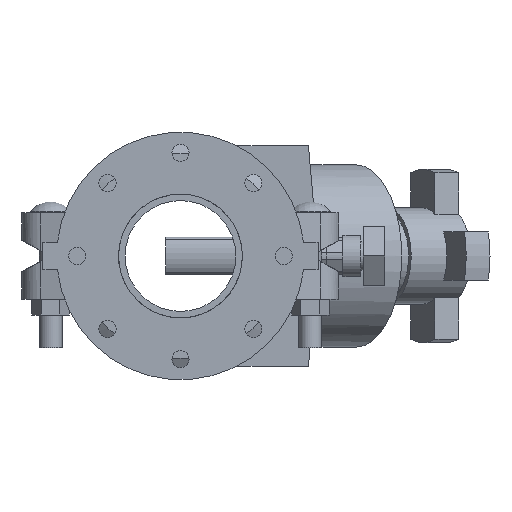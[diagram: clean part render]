
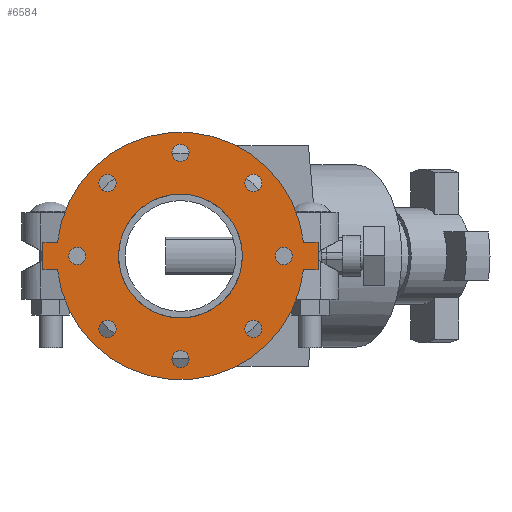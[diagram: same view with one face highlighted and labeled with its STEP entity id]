
A CAD part, front view. The second image highlights one B-rep face of the part: STEP entity #6584.
In plain terms, the highlighted planar face has unit normal (0, -1, 0) as drawn and (0, 0, 1) by its records, which use the part's own axes.
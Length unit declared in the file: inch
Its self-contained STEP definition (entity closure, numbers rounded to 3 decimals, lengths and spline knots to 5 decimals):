
#210=FACE_BOUND('',#872,.T.);
#211=FACE_BOUND('',#873,.T.);
#212=FACE_BOUND('',#874,.T.);
#213=FACE_BOUND('',#875,.T.);
#214=FACE_BOUND('',#876,.T.);
#215=FACE_BOUND('',#877,.T.);
#216=FACE_BOUND('',#878,.T.);
#217=FACE_BOUND('',#879,.T.);
#218=FACE_BOUND('',#880,.T.);
#284=PLANE('',#7166);
#504=FACE_OUTER_BOUND('',#871,.T.);
#871=EDGE_LOOP('',(#4293,#4294,#4295,#4296,#4297,#4298,#4299,#4300));
#872=EDGE_LOOP('',(#4301));
#873=EDGE_LOOP('',(#4302));
#874=EDGE_LOOP('',(#4303));
#875=EDGE_LOOP('',(#4304));
#876=EDGE_LOOP('',(#4305));
#877=EDGE_LOOP('',(#4306));
#878=EDGE_LOOP('',(#4307));
#879=EDGE_LOOP('',(#4308));
#880=EDGE_LOOP('',(#4309,#4310));
#1298=LINE('',#10084,#1789);
#1299=LINE('',#10087,#1790);
#1302=LINE('',#10092,#1793);
#1303=LINE('',#10095,#1794);
#1305=LINE('',#10098,#1796);
#1306=LINE('',#10100,#1797);
#1789=VECTOR('',#8013,0.3937);
#1790=VECTOR('',#8016,0.3937);
#1793=VECTOR('',#8021,0.3937);
#1794=VECTOR('',#8024,0.3937);
#1796=VECTOR('',#8028,0.3937);
#1797=VECTOR('',#8031,0.3937);
#2260=CIRCLE('',#7125,0.3125);
#2262=CIRCLE('',#7128,0.3125);
#2264=CIRCLE('',#7131,0.3125);
#2266=CIRCLE('',#7134,0.3125);
#2268=CIRCLE('',#7137,0.3125);
#2270=CIRCLE('',#7140,0.3125);
#2272=CIRCLE('',#7143,0.3125);
#2274=CIRCLE('',#7146,0.3125);
#2280=CIRCLE('',#7154,4.5);
#2281=CIRCLE('',#7156,2.25);
#2282=CIRCLE('',#7157,2.25);
#2283=CIRCLE('',#7159,4.5);
#2635=VERTEX_POINT('',#9995);
#2637=VERTEX_POINT('',#10001);
#2639=VERTEX_POINT('',#10007);
#2641=VERTEX_POINT('',#10013);
#2643=VERTEX_POINT('',#10019);
#2645=VERTEX_POINT('',#10025);
#2647=VERTEX_POINT('',#10031);
#2649=VERTEX_POINT('',#10037);
#2661=VERTEX_POINT('',#10064);
#2662=VERTEX_POINT('',#10066);
#2663=VERTEX_POINT('',#10070);
#2664=VERTEX_POINT('',#10072);
#2665=VERTEX_POINT('',#10076);
#2666=VERTEX_POINT('',#10078);
#2667=VERTEX_POINT('',#10082);
#2668=VERTEX_POINT('',#10086);
#2669=VERTEX_POINT('',#10090);
#2670=VERTEX_POINT('',#10094);
#3270=EDGE_CURVE('',#2635,#2635,#2260,.T.);
#3273=EDGE_CURVE('',#2637,#2637,#2262,.T.);
#3276=EDGE_CURVE('',#2639,#2639,#2264,.T.);
#3279=EDGE_CURVE('',#2641,#2641,#2266,.T.);
#3282=EDGE_CURVE('',#2643,#2643,#2268,.T.);
#3285=EDGE_CURVE('',#2645,#2645,#2270,.T.);
#3288=EDGE_CURVE('',#2647,#2647,#2272,.T.);
#3291=EDGE_CURVE('',#2649,#2649,#2274,.T.);
#3306=EDGE_CURVE('',#2661,#2662,#2280,.T.);
#3308=EDGE_CURVE('',#2664,#2663,#2281,.T.);
#3309=EDGE_CURVE('',#2663,#2664,#2282,.T.);
#3311=EDGE_CURVE('',#2666,#2665,#2283,.T.);
#3314=EDGE_CURVE('',#2662,#2667,#1298,.T.);
#3315=EDGE_CURVE('',#2668,#2666,#1299,.T.);
#3318=EDGE_CURVE('',#2665,#2669,#1302,.T.);
#3319=EDGE_CURVE('',#2670,#2661,#1303,.T.);
#3321=EDGE_CURVE('',#2669,#2670,#1305,.T.);
#3322=EDGE_CURVE('',#2667,#2668,#1306,.T.);
#4293=ORIENTED_EDGE('',*,*,#3318,.T.);
#4294=ORIENTED_EDGE('',*,*,#3321,.T.);
#4295=ORIENTED_EDGE('',*,*,#3319,.T.);
#4296=ORIENTED_EDGE('',*,*,#3306,.T.);
#4297=ORIENTED_EDGE('',*,*,#3314,.T.);
#4298=ORIENTED_EDGE('',*,*,#3322,.T.);
#4299=ORIENTED_EDGE('',*,*,#3315,.T.);
#4300=ORIENTED_EDGE('',*,*,#3311,.T.);
#4301=ORIENTED_EDGE('',*,*,#3270,.T.);
#4302=ORIENTED_EDGE('',*,*,#3273,.T.);
#4303=ORIENTED_EDGE('',*,*,#3276,.T.);
#4304=ORIENTED_EDGE('',*,*,#3279,.T.);
#4305=ORIENTED_EDGE('',*,*,#3282,.T.);
#4306=ORIENTED_EDGE('',*,*,#3285,.T.);
#4307=ORIENTED_EDGE('',*,*,#3288,.T.);
#4308=ORIENTED_EDGE('',*,*,#3291,.T.);
#4309=ORIENTED_EDGE('',*,*,#3308,.T.);
#4310=ORIENTED_EDGE('',*,*,#3309,.T.);
#6584=ADVANCED_FACE('',(#504,#210,#211,#212,#213,#214,#215,#216,#217,#218),
#284,.T.);
#7125=AXIS2_PLACEMENT_3D('',#9996,#7921,#7922);
#7128=AXIS2_PLACEMENT_3D('',#10002,#7928,#7929);
#7131=AXIS2_PLACEMENT_3D('',#10008,#7935,#7936);
#7134=AXIS2_PLACEMENT_3D('',#10014,#7942,#7943);
#7137=AXIS2_PLACEMENT_3D('',#10020,#7949,#7950);
#7140=AXIS2_PLACEMENT_3D('',#10026,#7956,#7957);
#7143=AXIS2_PLACEMENT_3D('',#10032,#7963,#7964);
#7146=AXIS2_PLACEMENT_3D('',#10038,#7970,#7971);
#7154=AXIS2_PLACEMENT_3D('',#10068,#7995,#7996);
#7156=AXIS2_PLACEMENT_3D('',#10073,#8000,#8001);
#7157=AXIS2_PLACEMENT_3D('',#10074,#8002,#8003);
#7159=AXIS2_PLACEMENT_3D('',#10079,#8007,#8008);
#7166=AXIS2_PLACEMENT_3D('',#10101,#8032,#8033);
#7921=DIRECTION('center_axis',(0.,0.,-1.));
#7922=DIRECTION('ref_axis',(-0.707,0.707,0.));
#7928=DIRECTION('center_axis',(0.,0.,-1.));
#7929=DIRECTION('ref_axis',(0.,1.,0.));
#7935=DIRECTION('center_axis',(0.,0.,-1.));
#7936=DIRECTION('ref_axis',(0.707,0.707,0.));
#7942=DIRECTION('center_axis',(0.,0.,-1.));
#7943=DIRECTION('ref_axis',(1.,0.,0.));
#7949=DIRECTION('center_axis',(0.,0.,-1.));
#7950=DIRECTION('ref_axis',(0.707,-0.707,0.));
#7956=DIRECTION('center_axis',(0.,0.,-1.));
#7957=DIRECTION('ref_axis',(0.,-1.,0.));
#7963=DIRECTION('center_axis',(0.,0.,-1.));
#7964=DIRECTION('ref_axis',(-0.707,-0.707,0.));
#7970=DIRECTION('center_axis',(0.,0.,-1.));
#7971=DIRECTION('ref_axis',(-1.,0.,0.));
#7995=DIRECTION('center_axis',(0.,0.,1.));
#7996=DIRECTION('ref_axis',(-1.,0.,0.));
#8000=DIRECTION('center_axis',(0.,0.,-1.));
#8001=DIRECTION('ref_axis',(-1.,0.,0.));
#8002=DIRECTION('center_axis',(0.,0.,-1.));
#8003=DIRECTION('ref_axis',(-1.,0.,0.));
#8007=DIRECTION('center_axis',(0.,0.,1.));
#8008=DIRECTION('ref_axis',(-1.,0.,0.));
#8013=DIRECTION('',(0.,1.,0.));
#8016=DIRECTION('',(0.,-1.,0.));
#8021=DIRECTION('',(0.,-1.,0.));
#8024=DIRECTION('',(0.,1.,0.));
#8028=DIRECTION('',(1.,0.,0.));
#8031=DIRECTION('',(-1.,0.,0.));
#8032=DIRECTION('center_axis',(0.,0.,1.));
#8033=DIRECTION('ref_axis',(1.,0.,0.));
#9995=CARTESIAN_POINT('',(-2.43068,2.43068,0.5));
#9996=CARTESIAN_POINT('Origin',(-2.65165,2.65165,0.5));
#10001=CARTESIAN_POINT('',(0.,3.4375,0.5));
#10002=CARTESIAN_POINT('Origin',(0.,3.75,0.5));
#10007=CARTESIAN_POINT('',(2.43068,2.43068,0.5));
#10008=CARTESIAN_POINT('Origin',(2.65165,2.65165,0.5));
#10013=CARTESIAN_POINT('',(3.4375,0.,0.5));
#10014=CARTESIAN_POINT('Origin',(3.75,0.,0.5));
#10019=CARTESIAN_POINT('',(2.43068,-2.43068,0.5));
#10020=CARTESIAN_POINT('Origin',(2.65165,-2.65165,0.5));
#10025=CARTESIAN_POINT('',(0.,-3.4375,0.5));
#10026=CARTESIAN_POINT('Origin',(0.,-3.75,0.5));
#10031=CARTESIAN_POINT('',(-2.43068,-2.43068,0.5));
#10032=CARTESIAN_POINT('Origin',(-2.65165,-2.65165,0.5));
#10037=CARTESIAN_POINT('',(-3.4375,0.,0.5));
#10038=CARTESIAN_POINT('Origin',(-3.75,0.,0.5));
#10064=CARTESIAN_POINT('',(0.5,-4.47214,0.5));
#10066=CARTESIAN_POINT('',(0.5,4.47214,0.5));
#10068=CARTESIAN_POINT('Origin',(0.,0.,0.5));
#10070=CARTESIAN_POINT('',(2.25,0.,0.5));
#10072=CARTESIAN_POINT('',(0.5,2.19374,0.5));
#10073=CARTESIAN_POINT('Origin',(0.,0.,0.5));
#10074=CARTESIAN_POINT('Origin',(0.,0.,0.5));
#10076=CARTESIAN_POINT('',(-0.5,-4.47214,0.5));
#10078=CARTESIAN_POINT('',(-0.5,4.47214,0.5));
#10079=CARTESIAN_POINT('Origin',(0.,0.,0.5));
#10082=CARTESIAN_POINT('',(0.5,5.,0.5));
#10084=CARTESIAN_POINT('',(0.5,5.,0.5));
#10086=CARTESIAN_POINT('',(-0.5,5.,0.5));
#10087=CARTESIAN_POINT('',(-0.5,-5.,0.5));
#10090=CARTESIAN_POINT('',(-0.5,-5.,0.5));
#10092=CARTESIAN_POINT('',(-0.5,-5.,0.5));
#10094=CARTESIAN_POINT('',(0.5,-5.,0.5));
#10095=CARTESIAN_POINT('',(0.5,5.,0.5));
#10098=CARTESIAN_POINT('',(0.5,-5.,0.5));
#10100=CARTESIAN_POINT('',(-0.5,5.,0.5));
#10101=CARTESIAN_POINT('Origin',(0.,0.,0.5));
